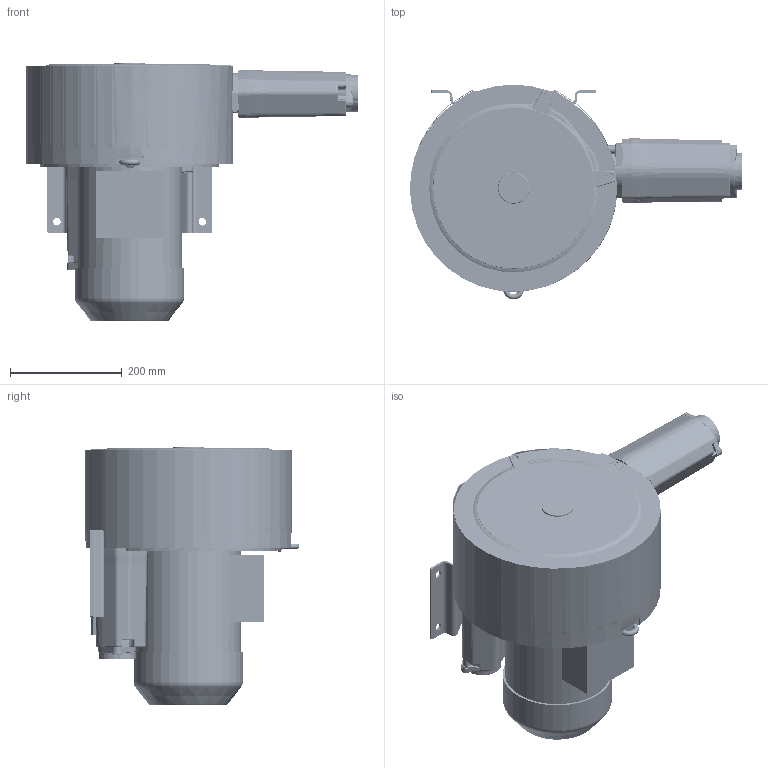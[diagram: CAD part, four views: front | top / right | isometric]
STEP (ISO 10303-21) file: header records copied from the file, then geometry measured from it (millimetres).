
FILE_DESCRIPTION((''),'2;1');
FILE_NAME('GHBH004342R5-3D','2017-08-04T',('Administrator'),(''),'CREO PARAMETRIC BY PTC INC, 2016260','CREO PARAMETRIC BY PTC INC, 2016260','');
FILE_SCHEMA(('AUTOMOTIVE_DESIGN { 1 0 10303 214 1 1 1 1 }'));
Products named in the file (1): GHBH004342R5-3D
Bounding box: 593.82 x 383.85 x 463.09 mm (x, y, z)
Volume: 29322103 mm3; surface area: 2347149.8 mm2
Topology: 1 solids, 102 shells, 8033 faces, 19228 edges, 11343 vertices
Faces by surface type: bspline 3243, cylinder 1433, plane 1158, torus 992, cone 849, sphere 303, extrusion 49, revolution 6
Entity records: 395754 total; most frequent: CARTESIAN_POINT 232528, ORIENTED_EDGE 37977, DIRECTION 29099, EDGE_CURVE 19199, AXIS2_PLACEMENT_3D 12442, VERTEX_POINT 11343, EDGE_LOOP 8271, FACE_OUTER_BOUND 8033
